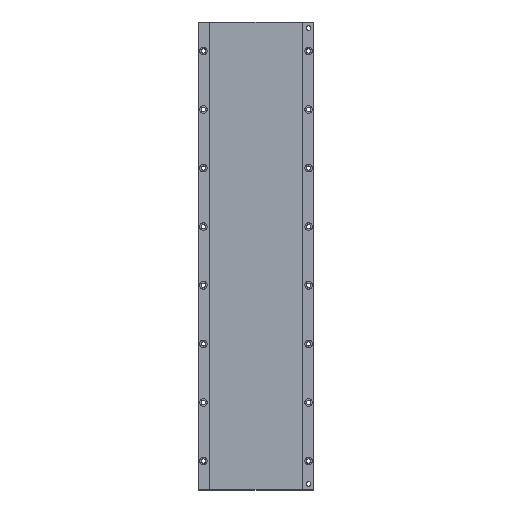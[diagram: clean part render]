
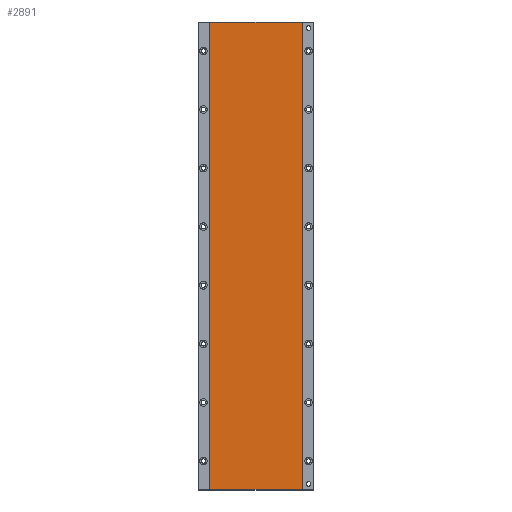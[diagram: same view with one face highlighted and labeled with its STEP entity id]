
A CAD part, top view. The second image highlights one B-rep face of the part: STEP entity #2891.
In plain terms, the highlighted planar face has unit normal (0, 0, 1).
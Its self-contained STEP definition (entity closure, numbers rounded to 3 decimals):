
#1022=DIRECTION('',(0.,1.,0.));
#1023=VECTOR('',#1022,510.);
#1024=CARTESIAN_POINT('',(-50.75,-255.,8.25));
#1025=LINE('',#1024,#1023);
#1026=DIRECTION('',(-1.,0.,0.));
#1027=VECTOR('',#1026,101.5);
#1028=CARTESIAN_POINT('',(50.75,255.,8.25));
#1029=LINE('',#1028,#1027);
#1042=DIRECTION('',(-1.,0.,0.));
#1043=VECTOR('',#1042,101.5);
#1044=CARTESIAN_POINT('',(50.75,-255.,8.25));
#1045=LINE('',#1044,#1043);
#1046=DIRECTION('',(0.,1.,0.));
#1047=VECTOR('',#1046,510.);
#1048=CARTESIAN_POINT('',(50.75,-255.,8.25));
#1049=LINE('',#1048,#1047);
#1346=CARTESIAN_POINT('',(50.75,-255.,8.25));
#1347=VERTEX_POINT('',#1346);
#1348=CARTESIAN_POINT('',(-50.75,-255.,8.25));
#1349=VERTEX_POINT('',#1348);
#1350=CARTESIAN_POINT('',(50.75,255.,8.25));
#1351=VERTEX_POINT('',#1350);
#1352=CARTESIAN_POINT('',(-50.75,255.,8.25));
#1353=VERTEX_POINT('',#1352);
#2879=CARTESIAN_POINT('',(0.,0.,8.25));
#2880=DIRECTION('',(0.,0.,1.));
#2881=DIRECTION('',(0.,-1.,0.));
#2882=AXIS2_PLACEMENT_3D('',#2879,#2880,#2881);
#2883=PLANE('',#2882);
#2884=ORIENTED_EDGE('',*,*,#2844,.T.);
#2885=ORIENTED_EDGE('',*,*,#2859,.T.);
#2886=ORIENTED_EDGE('',*,*,#2870,.F.);
#2888=ORIENTED_EDGE('',*,*,#2887,.F.);
#2889=EDGE_LOOP('',(#2884,#2885,#2886,#2888));
#2890=FACE_OUTER_BOUND('',#2889,.F.);
#2891=ADVANCED_FACE('',(#2890),#2883,.T.);
#2844=EDGE_CURVE('',#1347,#1349,#1045,.T.);
#2859=EDGE_CURVE('',#1349,#1353,#1025,.T.);
#2870=EDGE_CURVE('',#1351,#1353,#1029,.T.);
#2887=EDGE_CURVE('',#1347,#1351,#1049,.T.);
